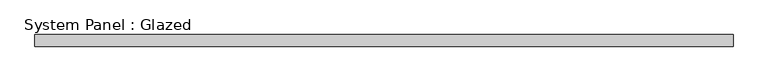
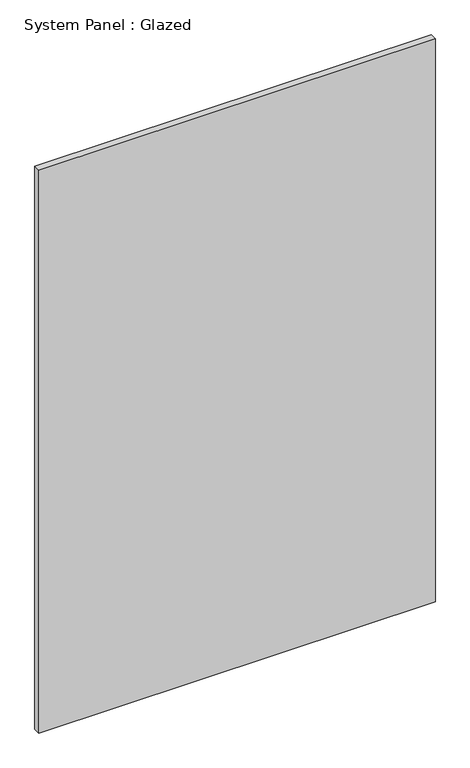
"""IFC4 building model written with IfcOpenShell, lengths in millimetres: plate geometry, System Panel : Glazed."""

from ifc_helpers import new_model, si_unit, origin, origin_with_axes, place, context, project, spatial, polyline, outline, extrude, source, transform, mapped, element, save


def system_panel_glazed_c0405daf(model_context):
    return source(origin(), model_context, "Body", "SweptSolid", [
        extrude(outline(polyline([(725.0, 24.5), (-725.0, 24.5), (-725.0, 49.5), (725.0, 49.5), (725.0, 24.5)])), origin_with_axes(), (0.0, 0.0, 1.0), 2175.0),
    ])


if __name__ == "__main__":
    model = new_model("IFC4")
    model_context = context("Model", 3, world=origin())
    ifc_project = project(units=[si_unit("LENGTHUNIT", "METRE", prefix="MILLI")], contexts=[model_context])
    site = spatial("IfcSite", under=ifc_project)
    building = spatial("IfcBuilding", under=site)
    placement = place(None, origin())
    system_panel_glazed_shape = system_panel_glazed_c0405daf(model_context)
    element("IfcPlate", 1, ObjectType="System Panel : Glazed", at=placement, inside=building, context=model_context, shape_type="MappedRepresentation", body=[
        mapped(system_panel_glazed_shape, transform((0.0, 0.0, 0.0), x_axis=(1.0, 0.0, 0.0), y_axis=(0.0, 1.0, 0.0), z_axis=(0.0, 0.0, 1.0))),
    ])
    save(model, "model.ifc")
